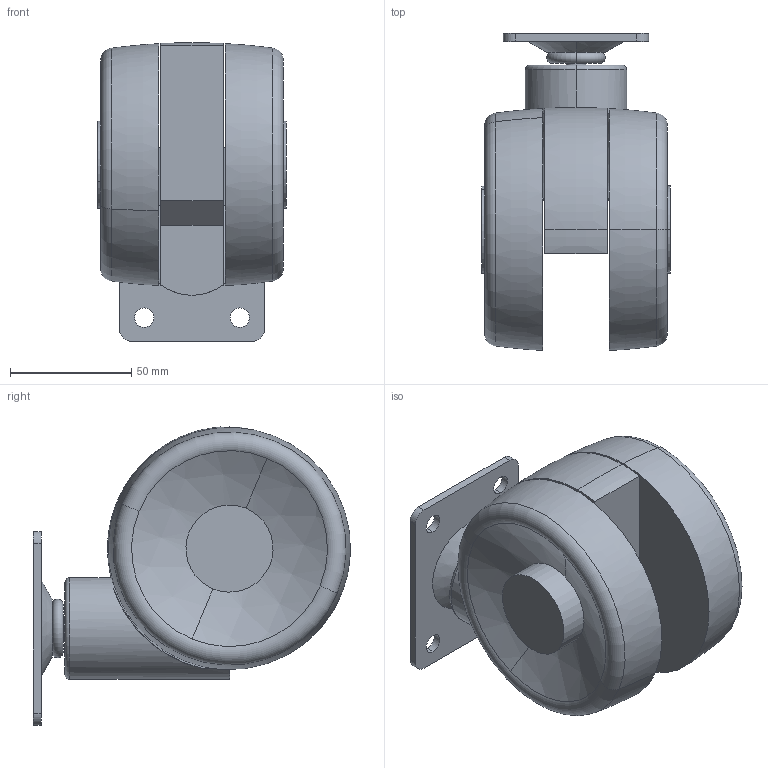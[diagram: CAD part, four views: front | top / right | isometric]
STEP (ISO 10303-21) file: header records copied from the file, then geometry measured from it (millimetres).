
FILE_DESCRIPTION (( 'STEP AP214' ), '1' );
FILE_NAME ('LAIA-100P.STEP', '2020-04-01T07:34:53', ( '' ), ( '' ), 'SwSTEP 2.0', 'SolidWorks 2019', '' );
FILE_SCHEMA (( 'AUTOMOTIVE_DESIGN' ));
Length unit declared in the file: millimetre
Products named in the file (4): LAIA-100-P_wheel; LAIA-100-P_partsA; LAIA-100P; LAIA-100-P_partsB
Assembly tree (4 placements, depth 2):
  LAIA-100P
    LAIA-100-P_partsB
    LAIA-100-P_wheel  x2
    LAIA-100-P_partsA
Bounding box: 78 x 131 x 123.34 mm (x, y, z)
Volume: 501788.5 mm3; surface area: 79816.7 mm2
Topology: 4 solids, 4 shells, 63 faces, 150 edges, 98 vertices
Faces by surface type: cylinder 22, plane 19, torus 16, sphere 4, cone 2
Entity records: 1858 total; most frequent: CARTESIAN_POINT 379, DIRECTION 318, ORIENTED_EDGE 256, AXIS2_PLACEMENT_3D 137, EDGE_CURVE 128, VERTEX_POINT 84, CIRCLE 77, EDGE_LOOP 64
